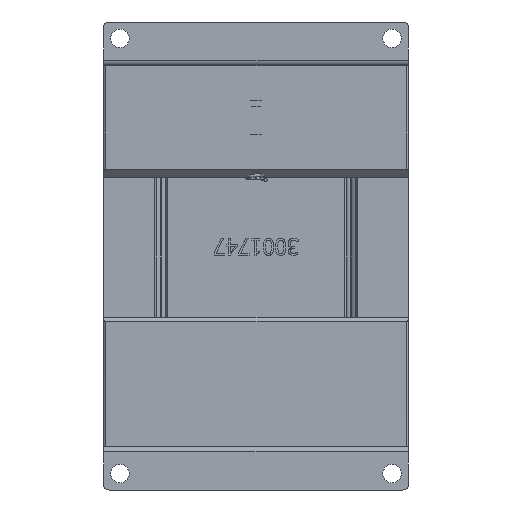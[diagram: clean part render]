
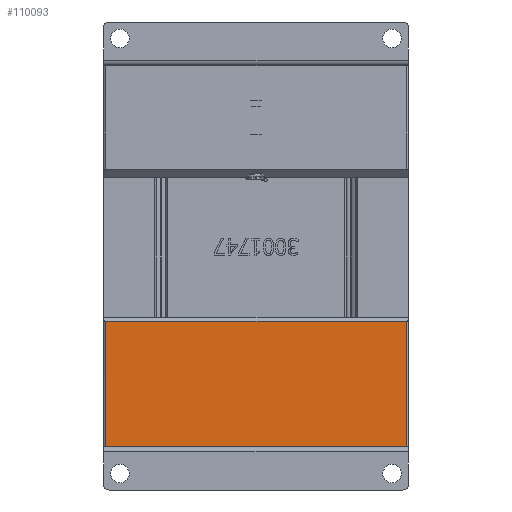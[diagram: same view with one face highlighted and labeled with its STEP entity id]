
A CAD part, front view. The second image highlights one B-rep face of the part: STEP entity #110093.
In plain terms, the highlighted planar face has unit normal (0, -1, 0).
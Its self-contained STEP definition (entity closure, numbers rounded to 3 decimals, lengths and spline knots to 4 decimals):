
#12739=FACE_OUTER_BOUND('',#18884,.T.);
#18884=EDGE_LOOP('',(#97734,#97735,#97736,#97737));
#30543=LINE('',#194246,#42366);
#30660=LINE('',#195040,#42483);
#30671=LINE('',#195070,#42494);
#30679=LINE('',#195084,#42502);
#42366=VECTOR('',#145878,0.3937);
#42483=VECTOR('',#146609,0.3937);
#42494=VECTOR('',#146642,0.3937);
#42502=VECTOR('',#146656,0.3937);
#52460=VERTEX_POINT('',#194243);
#52461=VERTEX_POINT('',#194245);
#52830=VERTEX_POINT('',#195037);
#52831=VERTEX_POINT('',#195039);
#67596=EDGE_CURVE('',#52460,#52461,#30543,.T.);
#67992=EDGE_CURVE('',#52831,#52830,#30660,.T.);
#68009=EDGE_CURVE('',#52831,#52460,#30671,.T.);
#68017=EDGE_CURVE('',#52461,#52830,#30679,.T.);
#97734=ORIENTED_EDGE('',*,*,#67992,.T.);
#97735=ORIENTED_EDGE('',*,*,#68017,.F.);
#97736=ORIENTED_EDGE('',*,*,#67596,.F.);
#97737=ORIENTED_EDGE('',*,*,#68009,.F.);
#104825=PLANE('',#118983);
#110093=ADVANCED_FACE('',(#12739),#104825,.T.);
#118983=AXIS2_PLACEMENT_3D('',#195083,#146654,#146655);
#145878=DIRECTION('',(1.,0.,0.));
#146609=DIRECTION('',(1.,0.,0.));
#146642=DIRECTION('',(0.,0.,1.));
#146654=DIRECTION('center_axis',(0.,-1.,0.));
#146655=DIRECTION('ref_axis',(1.,0.,0.));
#146656=DIRECTION('',(0.,0.,-1.));
#194243=CARTESIAN_POINT('',(0.02,0.,3.5));
#194245=CARTESIAN_POINT('',(2.78,0.,3.5));
#194246=CARTESIAN_POINT('',(0.,0.,3.5));
#195037=CARTESIAN_POINT('',(2.78,0.,2.351));
#195039=CARTESIAN_POINT('',(0.02,0.,2.351));
#195040=CARTESIAN_POINT('',(0.,0.,2.351));
#195070=CARTESIAN_POINT('',(0.02,0.,0.));
#195083=CARTESIAN_POINT('Origin',(0.,0.,0.));
#195084=CARTESIAN_POINT('',(2.78,0.,0.));
